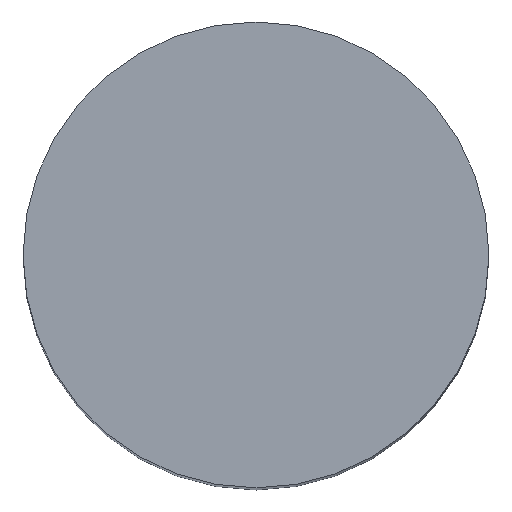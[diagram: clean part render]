
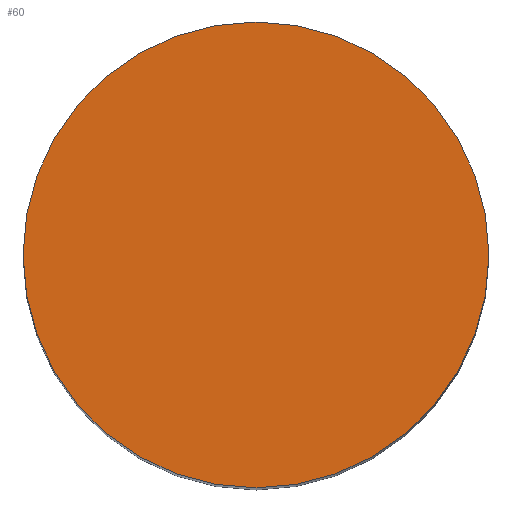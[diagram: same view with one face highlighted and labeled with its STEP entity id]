
A CAD part, top view. The second image highlights one B-rep face of the part: STEP entity #60.
In plain terms, the highlighted planar face has unit normal (0, 0, 1).
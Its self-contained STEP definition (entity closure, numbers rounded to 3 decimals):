
#60=ADVANCED_FACE('',(#115),#116,.T.);
#115=FACE_OUTER_BOUND('',#163,.T.);
#116=PLANE('',#164);
#163=EDGE_LOOP('',(#258,#259));
#164=AXIS2_PLACEMENT_3D('',#260,#261,#262);
#258=ORIENTED_EDGE('',*,*,#306,.T.);
#259=ORIENTED_EDGE('',*,*,#274,.T.);
#260=CARTESIAN_POINT('',(0.0,0.0,0.0));
#261=DIRECTION('',(0.0,0.0,1.0));
#262=DIRECTION('',(1.0,0.0,0.0));
#274=EDGE_CURVE('',#314,#311,#315,.T.);
#306=EDGE_CURVE('',#311,#314,#358,.T.);
#311=VERTEX_POINT('',#363);
#314=VERTEX_POINT('',#367);
#315=CIRCLE('',#368,9.0);
#358=CIRCLE('',#420,9.0);
#363=CARTESIAN_POINT('',(-9.0,0.0,0.0));
#367=CARTESIAN_POINT('',(9.0,0.,0.0));
#368=AXIS2_PLACEMENT_3D('',#425,#426,#427);
#420=AXIS2_PLACEMENT_3D('',#473,#474,#475);
#425=CARTESIAN_POINT('',(0.0,0.0,0.0));
#426=DIRECTION('',(0.0,0.0,1.0));
#427=DIRECTION('',(-1.0,0.0,0.0));
#473=CARTESIAN_POINT('',(0.0,0.0,0.0));
#474=DIRECTION('',(0.0,0.0,1.0));
#475=DIRECTION('',(-1.0,0.0,0.0));
